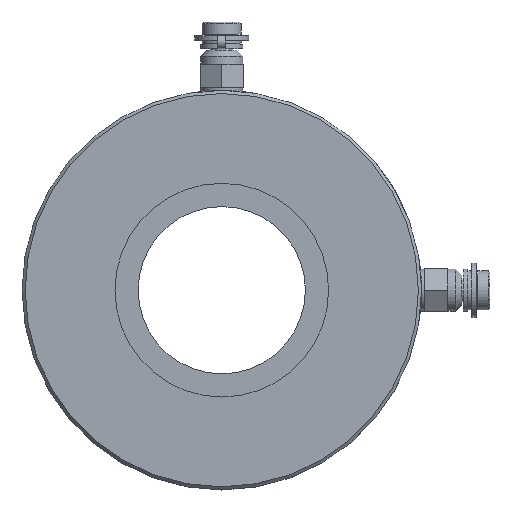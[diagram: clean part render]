
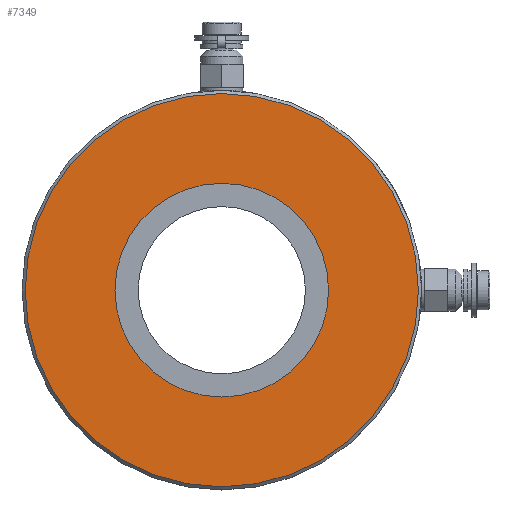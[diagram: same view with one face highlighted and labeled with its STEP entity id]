
A CAD part, top view. The second image highlights one B-rep face of the part: STEP entity #7349.
In plain terms, the highlighted planar face has unit normal (0, 0, 1).
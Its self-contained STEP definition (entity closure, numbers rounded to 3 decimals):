
#7315=CARTESIAN_POINT('',(63.5,0.,9.0));
#7316=VERTEX_POINT('',#7315);
#7317=CARTESIAN_POINT('',(0.0,0.0,9.0));
#7318=DIRECTION('',(0.0,0.0,-1.0));
#7319=DIRECTION('',(-1.0,0.0,0.0));
#7320=AXIS2_PLACEMENT_3D('',#7317,#7318,#7319);
#7321=CIRCLE('',#7320,63.5);
#7322=EDGE_CURVE('',#7316,#7316,#7321,.T.);
#7330=CARTESIAN_POINT('',(0.0,0.0,9.0));
#7331=DIRECTION('',(0.0,0.0,-1.0));
#7332=DIRECTION('',(-1.0,0.0,0.0));
#7333=AXIS2_PLACEMENT_3D('',#7330,#7331,#7332);
#7334=PLANE('',#7333);
#7335=ORIENTED_EDGE('',*,*,#7322,.F.);
#7336=EDGE_LOOP('',(#7335));
#7337=FACE_OUTER_BOUND('',#7336,.T.);
#7338=CARTESIAN_POINT('',(34.5,0.,9.0));
#7339=VERTEX_POINT('',#7338);
#7340=CARTESIAN_POINT('',(0.0,0.0,9.0));
#7341=DIRECTION('',(0.0,0.0,-1.0));
#7342=DIRECTION('',(-1.0,0.0,0.0));
#7343=AXIS2_PLACEMENT_3D('',#7340,#7341,#7342);
#7344=CIRCLE('',#7343,34.5);
#7345=EDGE_CURVE('',#7339,#7339,#7344,.T.);
#7346=ORIENTED_EDGE('',*,*,#7345,.T.);
#7347=EDGE_LOOP('',(#7346));
#7348=FACE_BOUND('',#7347,.T.);
#7349=ADVANCED_FACE('',(#7337,#7348),#7334,.F.);
